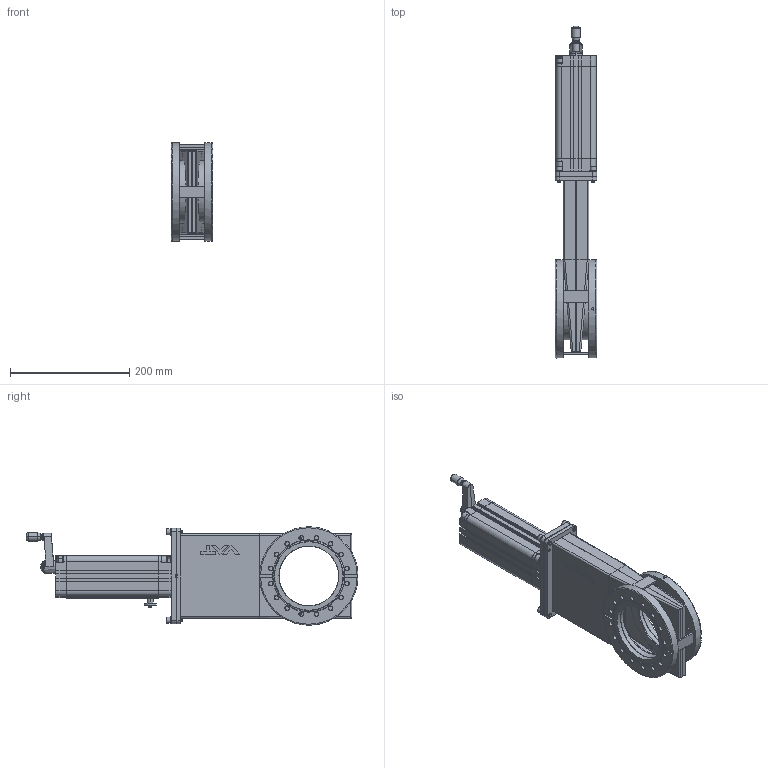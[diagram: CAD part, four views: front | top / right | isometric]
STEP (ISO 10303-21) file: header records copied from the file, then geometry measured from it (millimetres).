
FILE_DESCRIPTION(/* description */ (''),/* implementation_level */ '2;1');
FILE_NAME(/* name */ '1049078099_203',/* time_stamp */ '2009-11-23T10:24:26+01:00',/* author */ (''),/* organization */ (''),/* preprocessor_version */ 'ST-DEVELOPER v11',/* originating_system */ 'UGS - NX 5.0',/* authorisation */ '');
FILE_SCHEMA (('CONFIG_CONTROL_DESIGN'));
Length unit declared in the file: millimetre
Products named in the file (28): 301626.1; 342971.1; 343006.1; N-6092-118.1; 251086.3; n-6134-408; 218189; n-6195-408; N-6066-008.1; 260826.1; 307121.7; 260722.6; 250214.4; 251261.12; 251262.4; 251259.6; 260719.2; 260718.3; 332680.2; 301646.1; 259432.1; 313109.1; 312601.1; 260720.3; 259597.1; 343008.1; 251409.4; 317153.3
Assembly tree (42 placements, depth 3):
  317153.3
    259597.1  x4
    260720.3
    312601.1
    313109.1
    259432.1
    301646.1
    332680.2
    260718.3
    260719.2
    251409.4
      251086.3
      N-6092-118.1  x2
    251259.6  x2
    251262.4  x3
    251261.12  x2
    250214.4
    260722.6
    307121.7
    260826.1
    N-6066-008.1
    n-6195-408
    218189  x4
    n-6134-408  x4
    343008.1
      343006.1
      342971.1  x2
      301626.1
Bounding box: 70 x 556.56 x 164.8 mm (x, y, z)
Volume: 1180702.7 mm3; surface area: 530176.6 mm2
Topology: 49 solids, 49 shells, 1573 faces, 3955 edges, 2560 vertices
Faces by surface type: plane 727, cylinder 434, bspline 188, revolution 94, cone 78, extrusion 44, sphere 4, torus 4
Full cylindrical faces by diameter (mm): 1.7 x1, 2.2 x1, 3.17 x1, 4 x2, 4.96 x4, 4.976 x2, 4.985 x1, 5 x8, 5.124 x2, 5.22 x4, 5.3 x1, 5.7 x2, 6 x12, 6.4 x4, 6.5 x10, 6.8 x32, 7.976 x2, 8 x34, 8.8 x1, 10 x4, 10.008 x1, 10.281 x1, 10.321 x1, 10.4 x4, 11 x6, 11.5 x4, 12 x2, 14 x3, 15 x1, 15.2 x1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
Entity records: 56722 total; most frequent: CARTESIAN_POINT 24216, ORIENTED_EDGE 5950, DIRECTION 5518, EDGE_CURVE 2975, VERTEX_POINT 2058, AXIS2_PLACEMENT_3D 1920, EDGE_LOOP 1691, VECTOR 1626
